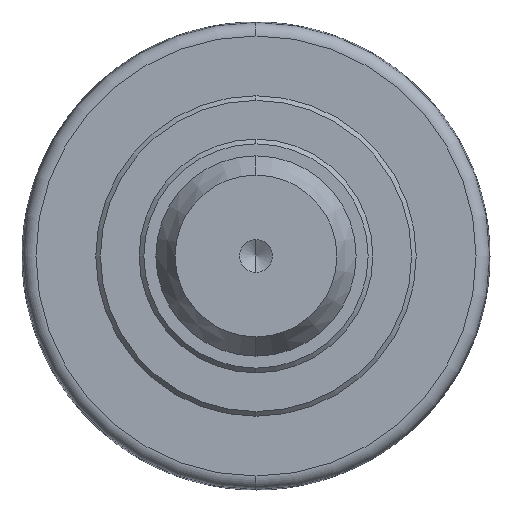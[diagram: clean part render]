
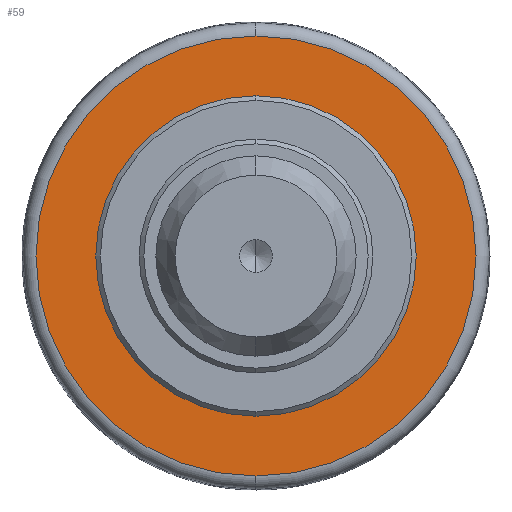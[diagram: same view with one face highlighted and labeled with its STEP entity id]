
A CAD part, left-side view. The second image highlights one B-rep face of the part: STEP entity #59.
In plain terms, the highlighted planar face has unit normal (-1, 0, 0).
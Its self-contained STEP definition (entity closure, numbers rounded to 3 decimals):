
#2 = AXIS2_PLACEMENT_3D ( 'NONE', #509, #4, #447 ) ;
#4 = DIRECTION ( 'NONE',  ( 1., 0., 0. ) ) ;
#6 = CIRCLE ( 'NONE', #203, 23.75 ) ;
#59 = ADVANCED_FACE ( 'NONE', ( #229, #684 ), #101, .T. ) ;
#76 = EDGE_CURVE ( 'NONE', #285, #462, #917, .T. ) ;
#80 = ORIENTED_EDGE ( 'NONE', *, *, #166, .F. ) ;
#101 = PLANE ( 'NONE',  #375 ) ;
#163 = EDGE_LOOP ( 'NONE', ( #540, #220 ) ) ;
#166 = EDGE_CURVE ( 'NONE', #462, #285, #576, .T. ) ;
#177 = CARTESIAN_POINT ( 'NONE',  ( -2.65, 0., 32.959 ) ) ;
#203 = AXIS2_PLACEMENT_3D ( 'NONE', #366, #804, #293 ) ;
#217 = DIRECTION ( 'NONE',  ( 0., 0., -1. ) ) ;
#220 = ORIENTED_EDGE ( 'NONE', *, *, #603, .T. ) ;
#221 = EDGE_LOOP ( 'NONE', ( #80, #610 ) ) ;
#229 = FACE_BOUND ( 'NONE', #163, .T. ) ;
#254 = DIRECTION ( 'NONE',  ( -1., 0., 0. ) ) ;
#274 = CIRCLE ( 'NONE', #2, 23.75 ) ;
#285 = VERTEX_POINT ( 'NONE', #177 ) ;
#289 = CARTESIAN_POINT ( 'NONE',  ( -2.65, 0., 0. ) ) ;
#293 = DIRECTION ( 'NONE',  ( 0., 0., -1. ) ) ;
#302 = DIRECTION ( 'NONE',  ( 0., 0., -1. ) ) ;
#366 = CARTESIAN_POINT ( 'NONE',  ( -2.65, 0., 0. ) ) ;
#375 = AXIS2_PLACEMENT_3D ( 'NONE', #689, #254, #532 ) ;
#376 = CARTESIAN_POINT ( 'NONE',  ( -2.65, 0., 0. ) ) ;
#416 = CARTESIAN_POINT ( 'NONE',  ( -2.65, 0., 23.75 ) ) ;
#447 = DIRECTION ( 'NONE',  ( 0., 0., -1. ) ) ;
#462 = VERTEX_POINT ( 'NONE', #775 ) ;
#465 = AXIS2_PLACEMENT_3D ( 'NONE', #376, #812, #302 ) ;
#509 = CARTESIAN_POINT ( 'NONE',  ( -2.65, 0., 0. ) ) ;
#532 = DIRECTION ( 'NONE',  ( 0., 0., 1. ) ) ;
#540 = ORIENTED_EDGE ( 'NONE', *, *, #663, .T. ) ;
#543 = VERTEX_POINT ( 'NONE', #709 ) ;
#576 = CIRCLE ( 'NONE', #863, 32.959 ) ;
#603 = EDGE_CURVE ( 'NONE', #810, #543, #274, .T. ) ;
#610 = ORIENTED_EDGE ( 'NONE', *, *, #76, .F. ) ;
#640 = DIRECTION ( 'NONE',  ( 1., 0., 0. ) ) ;
#663 = EDGE_CURVE ( 'NONE', #543, #810, #6, .T. ) ;
#684 = FACE_OUTER_BOUND ( 'NONE', #221, .T. ) ;
#689 = CARTESIAN_POINT ( 'NONE',  ( -2.65, 32.959, 0. ) ) ;
#709 = CARTESIAN_POINT ( 'NONE',  ( -2.65, 0., -23.75 ) ) ;
#775 = CARTESIAN_POINT ( 'NONE',  ( -2.65, 0., -32.959 ) ) ;
#804 = DIRECTION ( 'NONE',  ( 1., 0., 0. ) ) ;
#810 = VERTEX_POINT ( 'NONE', #416 ) ;
#812 = DIRECTION ( 'NONE',  ( 1., 0., 0. ) ) ;
#863 = AXIS2_PLACEMENT_3D ( 'NONE', #289, #640, #217 ) ;
#917 = CIRCLE ( 'NONE', #465, 32.959 ) ;
